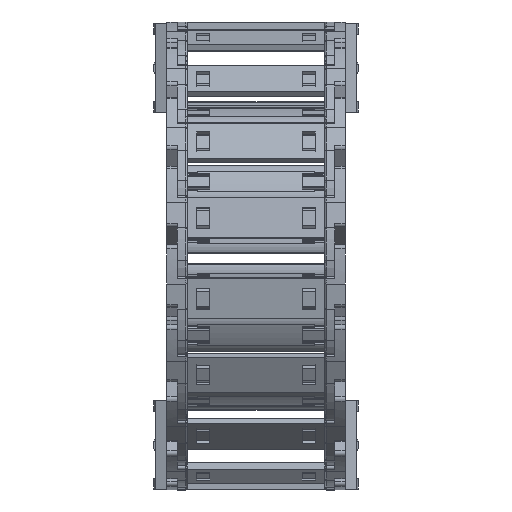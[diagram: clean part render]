
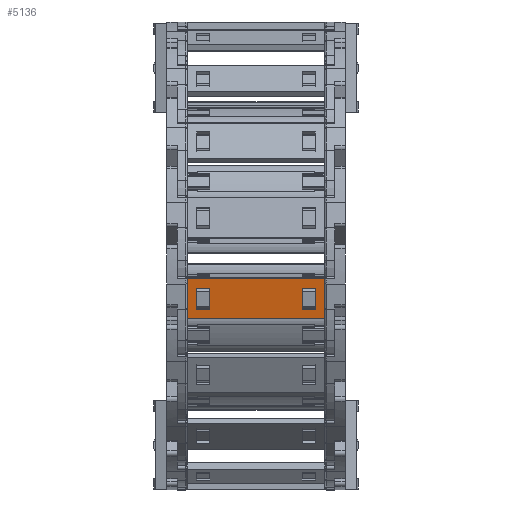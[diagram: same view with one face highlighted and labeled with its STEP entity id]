
A CAD part, top view. The second image highlights one B-rep face of the part: STEP entity #5136.
In plain terms, the highlighted planar face has unit normal (0, -0.174, 0.985) as drawn and (0, 1, 0) by its records, which use the part's own axes.
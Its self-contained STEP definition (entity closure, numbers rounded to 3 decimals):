
#4541=DIRECTION('',(0.,0.,-1.));
#4542=VECTOR('',#4541,11.);
#4543=CARTESIAN_POINT('',(26.283,1.24,5.5));
#4544=LINE('',#4543,#4542);
#4567=DIRECTION('',(1.,0.,0.));
#4568=VECTOR('',#4567,37.5);
#4569=CARTESIAN_POINT('',(-11.217,1.24,5.5));
#4570=LINE('',#4569,#4568);
#4571=DIRECTION('',(0.,0.,1.));
#4572=VECTOR('',#4571,11.);
#4573=CARTESIAN_POINT('',(-11.217,1.24,-5.5));
#4574=LINE('',#4573,#4572);
#4597=DIRECTION('',(1.,0.,0.));
#4598=VECTOR('',#4597,37.5);
#4599=CARTESIAN_POINT('',(-11.217,1.24,-5.5));
#4600=LINE('',#4599,#4598);
#4601=DIRECTION('',(1.,0.,0.));
#4602=VECTOR('',#4601,3.6);
#4603=CARTESIAN_POINT('',(-8.605,1.24,2.899));
#4604=LINE('',#4603,#4602);
#4605=DIRECTION('',(0.,0.,-1.));
#4606=VECTOR('',#4605,5.798);
#4607=CARTESIAN_POINT('',(-5.005,1.24,2.899));
#4608=LINE('',#4607,#4606);
#4609=DIRECTION('',(-1.,0.,0.));
#4610=VECTOR('',#4609,3.6);
#4611=CARTESIAN_POINT('',(-5.005,1.24,-2.899));
#4612=LINE('',#4611,#4610);
#4613=DIRECTION('',(0.,0.,1.));
#4614=VECTOR('',#4613,5.798);
#4615=CARTESIAN_POINT('',(-8.605,1.24,-2.899));
#4616=LINE('',#4615,#4614);
#4617=DIRECTION('',(1.,0.,0.));
#4618=VECTOR('',#4617,3.6);
#4619=CARTESIAN_POINT('',(20.071,1.24,2.899));
#4620=LINE('',#4619,#4618);
#4621=DIRECTION('',(0.,0.,-1.));
#4622=VECTOR('',#4621,5.798);
#4623=CARTESIAN_POINT('',(23.671,1.24,2.899));
#4624=LINE('',#4623,#4622);
#4625=DIRECTION('',(-1.,0.,0.));
#4626=VECTOR('',#4625,3.6);
#4627=CARTESIAN_POINT('',(23.671,1.24,-2.899));
#4628=LINE('',#4627,#4626);
#4629=DIRECTION('',(0.,0.,1.));
#4630=VECTOR('',#4629,5.798);
#4631=CARTESIAN_POINT('',(20.071,1.24,-2.899));
#4632=LINE('',#4631,#4630);
#4940=CARTESIAN_POINT('',(26.283,1.24,5.5));
#4942=VERTEX_POINT('',#4940);
#4943=CARTESIAN_POINT('',(26.283,1.24,-5.5));
#4944=VERTEX_POINT('',#4943);
#4951=CARTESIAN_POINT('',(20.071,1.24,2.899));
#4952=CARTESIAN_POINT('',(23.671,1.24,2.899));
#4953=VERTEX_POINT('',#4951);
#4954=VERTEX_POINT('',#4952);
#4955=CARTESIAN_POINT('',(23.671,1.24,-2.899));
#4956=VERTEX_POINT('',#4955);
#4957=CARTESIAN_POINT('',(20.071,1.24,-2.899));
#4958=VERTEX_POINT('',#4957);
#4995=CARTESIAN_POINT('',(-11.217,1.24,5.5));
#4997=VERTEX_POINT('',#4995);
#4999=CARTESIAN_POINT('',(-11.217,1.24,-5.5));
#5000=VERTEX_POINT('',#4999);
#5007=CARTESIAN_POINT('',(-8.605,1.24,2.899));
#5008=CARTESIAN_POINT('',(-5.005,1.24,2.899));
#5009=VERTEX_POINT('',#5007);
#5010=VERTEX_POINT('',#5008);
#5011=CARTESIAN_POINT('',(-5.005,1.24,-2.899));
#5012=VERTEX_POINT('',#5011);
#5013=CARTESIAN_POINT('',(-8.605,1.24,-2.899));
#5014=VERTEX_POINT('',#5013);
#5104=CARTESIAN_POINT('',(38.769,1.24,6.978));
#5105=DIRECTION('',(0.,-1.,0.));
#5106=DIRECTION('',(0.,0.,-1.));
#5107=AXIS2_PLACEMENT_3D('',#5104,#5105,#5106);
#5108=PLANE('',#5107);
#5109=ORIENTED_EDGE('',*,*,#5050,.F.);
#5110=ORIENTED_EDGE('',*,*,#5073,.F.);
#5111=ORIENTED_EDGE('',*,*,#5086,.F.);
#5113=ORIENTED_EDGE('',*,*,#5112,.T.);
#5114=EDGE_LOOP('',(#5109,#5110,#5111,#5113));
#5115=FACE_OUTER_BOUND('',#5114,.F.);
#5117=ORIENTED_EDGE('',*,*,#5116,.T.);
#5119=ORIENTED_EDGE('',*,*,#5118,.T.);
#5121=ORIENTED_EDGE('',*,*,#5120,.T.);
#5123=ORIENTED_EDGE('',*,*,#5122,.T.);
#5124=EDGE_LOOP('',(#5117,#5119,#5121,#5123));
#5125=FACE_BOUND('',#5124,.F.);
#5127=ORIENTED_EDGE('',*,*,#5126,.T.);
#5129=ORIENTED_EDGE('',*,*,#5128,.T.);
#5131=ORIENTED_EDGE('',*,*,#5130,.T.);
#5133=ORIENTED_EDGE('',*,*,#5132,.T.);
#5134=EDGE_LOOP('',(#5127,#5129,#5131,#5133));
#5135=FACE_BOUND('',#5134,.F.);
#5136=ADVANCED_FACE('',(#5115,#5125,#5135),#5108,.F.);
#5050=EDGE_CURVE('',#4942,#4944,#4544,.T.);
#5073=EDGE_CURVE('',#4997,#4942,#4570,.T.);
#5086=EDGE_CURVE('',#5000,#4997,#4574,.T.);
#5112=EDGE_CURVE('',#5000,#4944,#4600,.T.);
#5116=EDGE_CURVE('',#5009,#5010,#4604,.T.);
#5118=EDGE_CURVE('',#5010,#5012,#4608,.T.);
#5120=EDGE_CURVE('',#5012,#5014,#4612,.T.);
#5122=EDGE_CURVE('',#5014,#5009,#4616,.T.);
#5126=EDGE_CURVE('',#4953,#4954,#4620,.T.);
#5128=EDGE_CURVE('',#4954,#4956,#4624,.T.);
#5130=EDGE_CURVE('',#4956,#4958,#4628,.T.);
#5132=EDGE_CURVE('',#4958,#4953,#4632,.T.);
